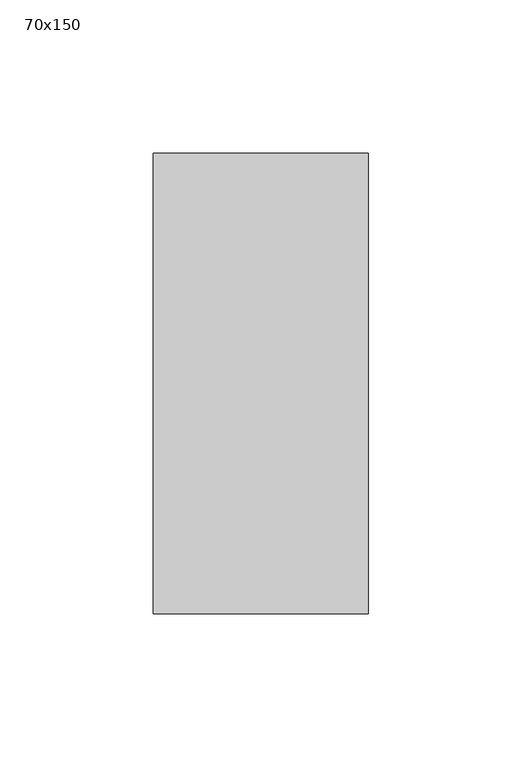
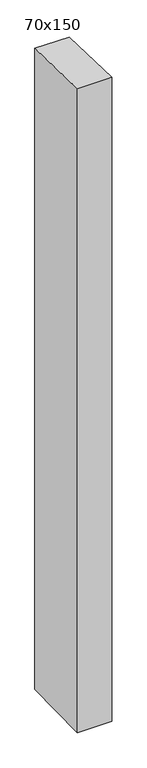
"""IFC4 building model written with IfcOpenShell, lengths in millimetres: member geometry, 長方形のマリオン : 70x150."""

import ifcopenshell
import ifcopenshell.guid

model = None  # the IFC model being written
_history = None  # IfcOwnerHistory: only IFC2X3 demands one
_inside = {}  # id of a spatial element -> (the spatial element, [elements in it])
_under = {}  # id of a project, library or spatial element -> (it, [spatial elements below it])
_declared = {}  # id of a project -> (the project, [libraries it declares])
_typed = {}  # id of a type object -> (the type object, [elements of that type])
_made_of = {}  # id of a material, layer set ... -> (it, [elements and type objects made of it])


def new_model(schema):
    """Start an empty IFC model of exactly this schema.

    Asked for "IFC4X3", IfcOpenShell would pick the latest addendum, in which some entities
    have other attributes; the version numbers below select the first issue.
    IFC2X3 requires an IfcOwnerHistory on every rooted entity: one is made here for all.
    """
    global model, _history
    if schema == "IFC4X3":
        model = ifcopenshell.file(schema_version=(4, 3, 0, 0))
    else:
        model = ifcopenshell.file(schema=schema)
    _inside.clear()
    _under.clear()
    _declared.clear()
    _typed.clear()
    _made_of.clear()
    _history = None
    if model.schema == "IFC2X3":
        org = make("IfcOrganization", Name="unknown")
        user = make(
            "IfcPersonAndOrganization",
            ThePerson=make("IfcPerson", FamilyName="unknown"),
            TheOrganization=org,
        )
        app = make(
            "IfcApplication",
            ApplicationDeveloper=org,
            Version="unknown",
            ApplicationFullName="unknown",
            ApplicationIdentifier="unknown",
        )
        _history = make(
            "IfcOwnerHistory",
            OwningUser=user,
            OwningApplication=app,
            ChangeAction="ADDED",
            CreationDate=0,
        )
    return model


def make(cls, **values):
    """One entity of the class cls with the attributes given. An attribute that is None is left unset."""
    return model.create_entity(
        cls, **{name: value for name, value in values.items() if value is not None}
    )


def rooted(cls, **values):
    """An entity with a GlobalId (a new one), such as an element, a storey or a relation."""
    return make(cls, GlobalId=ifcopenshell.guid.new(), OwnerHistory=_history, **values)


def si_unit(unit_type, name, prefix=None):
    """IfcSIUnit, for example si_unit("LENGTHUNIT", "METRE", prefix="MILLI")."""
    return make("IfcSIUnit", UnitType=unit_type, Prefix=prefix, Name=name)


def assignment(units):
    """IfcUnitAssignment: the units of a project."""
    return None if units is None else make("IfcUnitAssignment", Units=units)


def point(xyz):
    """IfcCartesianPoint."""
    return None if xyz is None else make("IfcCartesianPoint", Coordinates=xyz)


def direction(xyz):
    """IfcDirection."""
    return None if xyz is None else make("IfcDirection", DirectionRatios=xyz)


def frame(location, z_axis=None, x_axis=None):
    """IfcAxis2Placement3D, a coordinate frame: its origin and axes. An axis left out is left unset."""
    return make(
        "IfcAxis2Placement3D",
        Location=point(location),
        Axis=direction(z_axis),
        RefDirection=direction(x_axis),
    )


def origin():
    """The frame at (0, 0, 0) with its axes left unset."""
    return frame((0.0, 0.0, 0.0))


def place(relative_to, where):
    """IfcLocalPlacement: puts the frame where relative to a parent placement (None: the world)."""
    return make(
        "IfcLocalPlacement", PlacementRelTo=relative_to, RelativePlacement=where
    )


def context(
    kind, dimensions, precision=None, world=None, true_north=None, identifier=None
):
    """IfcGeometricRepresentationContext, for example the 3D "Model" context."""
    return make(
        "IfcGeometricRepresentationContext",
        ContextIdentifier=identifier,
        ContextType=kind,
        CoordinateSpaceDimension=dimensions,
        Precision=precision,
        WorldCoordinateSystem=world,
        TrueNorth=true_north,
    )


def project(units=None, contexts=None):
    """IfcProject with its units and contexts."""
    return rooted(
        "IfcProject",
        Name="project",
        RepresentationContexts=contexts,
        UnitsInContext=assignment(units),
    )


def spatial(cls, under=None, at=None, **own):
    """A site, building, storey or space (cls), placed at a placement, below another one or the project."""
    s = rooted(cls, ObjectPlacement=at, **own)
    if under is not None:
        _under.setdefault(under.id(), (under, []))[1].append(s)
    return s


def polyline(points):
    """IfcPolyline through the points."""
    return make("IfcPolyline", Points=[point(p) for p in points])


def outline(outer, holes=None, kind="AREA"):
    """IfcArbitraryClosedProfileDef: a profile drawn as a closed curve; with holes, ...WithVoids."""
    if holes is None:
        return make("IfcArbitraryClosedProfileDef", ProfileType=kind, OuterCurve=outer)
    return make(
        "IfcArbitraryProfileDefWithVoids",
        ProfileType=kind,
        OuterCurve=outer,
        InnerCurves=holes,
    )


def extrude(swept, where, along, depth):
    """IfcExtrudedAreaSolid: the profile swept, set in the frame where, extruded along a direction by depth."""
    return make(
        "IfcExtrudedAreaSolid",
        SweptArea=swept,
        Position=where,
        ExtrudedDirection=direction(along),
        Depth=depth,
    )


def shape(context_of_items, identifier, shape_type, items):
    """IfcShapeRepresentation: the items that make up one representation, for example the "Body"."""
    return make(
        "IfcShapeRepresentation",
        ContextOfItems=context_of_items,
        RepresentationIdentifier=identifier,
        RepresentationType=shape_type,
        Items=items,
    )


def source(mapping_origin, context_of_items, identifier, shape_type, items):
    """IfcRepresentationMap: a shape defined once, which mapped items show again and again."""
    return make(
        "IfcRepresentationMap",
        MappingOrigin=mapping_origin,
        MappedRepresentation=shape(context_of_items, identifier, shape_type, items),
    )


def transform(
    local_origin,
    x_axis=None,
    y_axis=None,
    z_axis=None,
    scale=None,
    scale2=None,
    scale3=None,
    uniform=True,
):
    """IfcCartesianTransformationOperator3D, or its non-uniform kind. x_axis, y_axis, z_axis: its Axis1, 2, 3."""
    if uniform:
        return make(
            "IfcCartesianTransformationOperator3D",
            Axis1=direction(x_axis),
            Axis2=direction(y_axis),
            LocalOrigin=point(local_origin),
            Scale=scale,
            Axis3=direction(z_axis),
        )
    return make(
        "IfcCartesianTransformationOperator3DnonUniform",
        Axis1=direction(x_axis),
        Axis2=direction(y_axis),
        LocalOrigin=point(local_origin),
        Scale=scale,
        Axis3=direction(z_axis),
        Scale2=scale2,
        Scale3=scale3,
    )


def mapped(mapping_source, mapping_target):
    """IfcMappedItem: shows the shape of a source again, moved by a transform."""
    return make(
        "IfcMappedItem", MappingSource=mapping_source, MappingTarget=mapping_target
    )


def made_of(thing, what):
    """Note that an element or type object is made of a material, layer set ...; save() writes the relation."""
    if what is not None:
        _made_of.setdefault(what.id(), (what, []))[1].append(thing)
    return thing


def element(
    cls,
    number,
    at=None,
    inside=None,
    cuts=None,
    type_object=None,
    material=None,
    context=None,
    identifier="Body",
    shape_type=None,
    held_by="IfcProductDefinitionShape",
    body=None,
    shapes=None,
    **own,
):
    """One element of the class cls, such as IfcWall. Its Tag is "e" and its number.

    at: its placement. inside: the storey or other place that contains it. cuts: it is an
    opening in that element (IfcRelVoidsElement). A single representation is given by context,
    identifier, shape_type and body (its items); several are given by shapes. held_by: the class
    of the entity that holds the representations. save() writes the other relations.
    """
    e = rooted(cls, Tag="e%d" % number, ObjectPlacement=at, **own)
    if body is not None:
        shapes = [shape(context, identifier, shape_type, body)]
    if shapes is not None:
        e.Representation = make(held_by, Representations=shapes)
    if inside is not None:
        _inside.setdefault(inside.id(), (inside, []))[1].append(e)
    if cuts is not None:
        rooted(
            "IfcRelVoidsElement", RelatingBuildingElement=cuts, RelatedOpeningElement=e
        )
    if type_object is not None:
        _typed.setdefault(type_object.id(), (type_object, []))[1].append(e)
    return made_of(e, material)


def aggregate(whole, parts):
    """IfcRelAggregates: a whole, such as a stair, and the parts it consists of."""
    return rooted("IfcRelAggregates", RelatingObject=whole, RelatedObjects=parts)


def save(model, path):
    """Write the relations noted so far, then the file.

    IfcRelAggregates (storeys below a building ...), IfcRelContainedInSpatialStructure (elements
    in a storey), IfcRelDefinesByType, IfcRelAssociatesMaterial and IfcRelDeclares: one each for
    every whole, place, type object, material and project.
    """
    for whole, parts in _under.values():
        aggregate(whole, parts)
    for where, things in _inside.values():
        rooted(
            "IfcRelContainedInSpatialStructure",
            RelatedElements=things,
            RelatingStructure=where,
        )
    for kind, things in _typed.values():
        rooted("IfcRelDefinesByType", RelatedObjects=things, RelatingType=kind)
    for what, things in _made_of.values():
        rooted("IfcRelAssociatesMaterial", RelatedObjects=things, RelatingMaterial=what)
    for by, libraries in _declared.values():
        rooted("IfcRelDeclares", RelatingContext=by, RelatedDefinitions=libraries)
    model.write(path)


def member_70x150_0f38a6a9(model_context):
    return source(origin(), model_context, "Body", "SweptSolid", [
        extrude(outline(polyline([(-75.0, 2.2718492), (75.0, -2.2718492), (75.0, -1384.5853628), (-75.0, -1386.5413288), (-75.0, 2.2718492)])), frame((-70.0, 0.0, 0.0), z_axis=(1.0, 0.0, 0.0), x_axis=(0.0, 1.0, 0.0)), (0.0, 0.0, 1.0), 70.0),
    ])


if __name__ == "__main__":
    model = new_model("IFC4")
    model_context = context("Model", 3, world=origin())
    ifc_project = project(units=[si_unit("LENGTHUNIT", "METRE", prefix="MILLI")], contexts=[model_context])
    site = spatial("IfcSite", under=ifc_project)
    building = spatial("IfcBuilding", under=site)
    placement = place(None, origin())
    member_70x150_shape = member_70x150_0f38a6a9(model_context)
    element("IfcMember", 1, ObjectType="長方形のマリオン : 70x150", at=placement, inside=building, context=model_context, shape_type="MappedRepresentation", body=[
        mapped(member_70x150_shape, transform((0.0, 0.0, 0.0), x_axis=(1.0, 0.0, 0.0), y_axis=(0.0, 1.0, 0.0), z_axis=(0.0, 0.0, 1.0))),
    ])
    save(model, "model.ifc")
